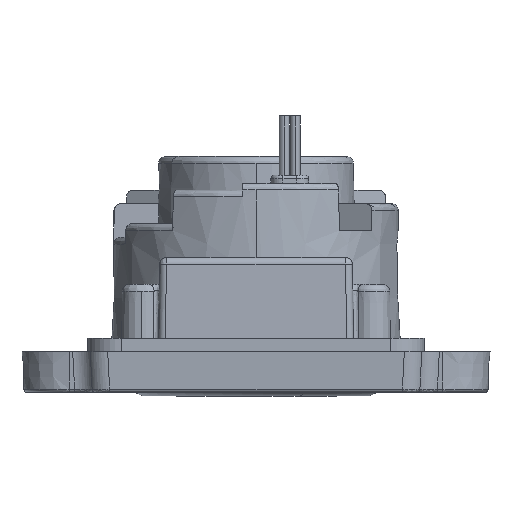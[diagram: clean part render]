
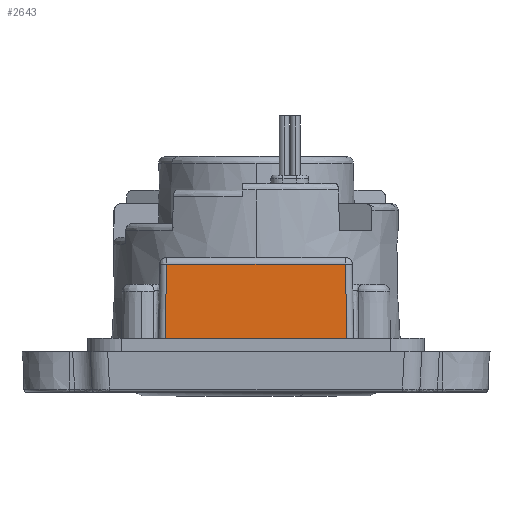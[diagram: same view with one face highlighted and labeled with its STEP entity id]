
A CAD part, top view. The second image highlights one B-rep face of the part: STEP entity #2643.
In plain terms, the highlighted planar face has unit normal (0, 0.018, 1).
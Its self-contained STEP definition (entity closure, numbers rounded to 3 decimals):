
#821 = VERTEX_POINT ( 'NONE', #5186 ) ;
#925 = VERTEX_POINT ( 'NONE', #12189 ) ;
#1293 = VECTOR ( 'NONE', #11611, 1000. ) ;
#1723 = CARTESIAN_POINT ( 'NONE',  ( -13.273, 18.017, 22.239 ) ) ;
#2316 = ORIENTED_EDGE ( 'NONE', *, *, #2833, .T. ) ;
#2588 = CARTESIAN_POINT ( 'NONE',  ( -13.5, 5., 22.467 ) ) ;
#2643 = ADVANCED_FACE ( 'NONE', ( #13708 ), #8635, .T. ) ;
#2803 = DIRECTION ( 'NONE',  ( -1., 0., 0. ) ) ;
#2833 = EDGE_CURVE ( 'NONE', #821, #925, #13349, .T. ) ;
#4753 = EDGE_CURVE ( 'NONE', #17341, #821, #16931, .T. ) ;
#5186 = CARTESIAN_POINT ( 'NONE',  ( 13.5, 5., 22.467 ) ) ;
#5575 = VECTOR ( 'NONE', #11323, 1000. ) ;
#5647 = EDGE_CURVE ( 'NONE', #925, #9209, #7766, .T. ) ;
#5959 = DIRECTION ( 'NONE',  ( -0.017, -1., 0.017 ) ) ;
#6949 = ORIENTED_EDGE ( 'NONE', *, *, #5647, .T. ) ;
#7766 = LINE ( 'NONE', #16365, #11441 ) ;
#8006 = CARTESIAN_POINT ( 'NONE',  ( 0., 5., 22.467 ) ) ;
#8635 = PLANE ( 'NONE',  #11692 ) ;
#9209 = VERTEX_POINT ( 'NONE', #1723 ) ;
#9641 = EDGE_CURVE ( 'NONE', #9209, #17341, #21361, .T. ) ;
#10209 = DIRECTION ( 'NONE',  ( 0., 0.017, 1. ) ) ;
#10993 = ORIENTED_EDGE ( 'NONE', *, *, #4753, .T. ) ;
#11323 = DIRECTION ( 'NONE',  ( -0.017, 1., -0.017 ) ) ;
#11441 = VECTOR ( 'NONE', #2803, 1000. ) ;
#11611 = DIRECTION ( 'NONE',  ( 1., 0., 0. ) ) ;
#11692 = AXIS2_PLACEMENT_3D ( 'NONE', #21066, #10209, #17098 ) ;
#12189 = CARTESIAN_POINT ( 'NONE',  ( 13.273, 18.017, 22.239 ) ) ;
#13349 = LINE ( 'NONE', #19932, #5575 ) ;
#13708 = FACE_OUTER_BOUND ( 'NONE', #17904, .T. ) ;
#13904 = VECTOR ( 'NONE', #5959, 1000. ) ;
#15878 = CARTESIAN_POINT ( 'NONE',  ( -13.5, 5., 22.467 ) ) ;
#16365 = CARTESIAN_POINT ( 'NONE',  ( 15.7, 18.017, 22.239 ) ) ;
#16931 = LINE ( 'NONE', #8006, #1293 ) ;
#17008 = ORIENTED_EDGE ( 'NONE', *, *, #9641, .T. ) ;
#17098 = DIRECTION ( 'NONE',  ( 0., -1., 0.017 ) ) ;
#17341 = VERTEX_POINT ( 'NONE', #15878 ) ;
#17904 = EDGE_LOOP ( 'NONE', ( #2316, #6949, #17008, #10993 ) ) ;
#19932 = CARTESIAN_POINT ( 'NONE',  ( 13.273, 18.017, 22.239 ) ) ;
#21066 = CARTESIAN_POINT ( 'NONE',  ( 15.7, 5., 22.467 ) ) ;
#21361 = LINE ( 'NONE', #2588, #13904 ) ;
